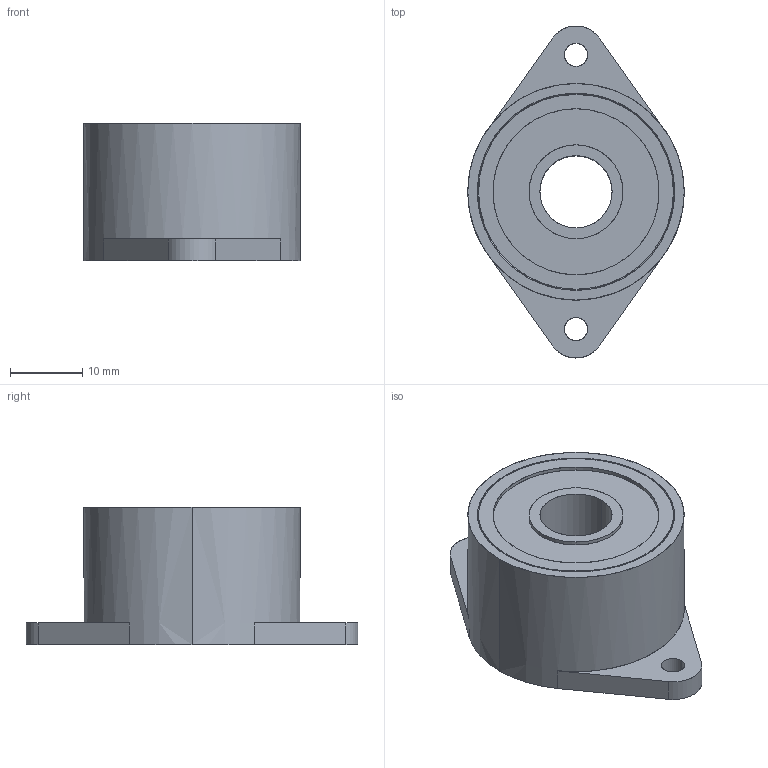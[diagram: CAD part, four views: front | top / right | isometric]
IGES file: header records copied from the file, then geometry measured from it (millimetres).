
Start section: SolidWorks IGES file using analytic representation for surfaces
Global section: file name: C:\3D-DATA\型式\R\【提出用】\IGS\FFD-30FW.IGS; native system: SolidWorks 2014; preprocessor: SolidWorks 2014; author: flgijutsu; date: 140516.195252; units: millimetre
Bounding box: 30 x 46 x 19 mm (x, y, z)
Surface area: 4755.2 mm2 (no closed solid volume)
Topology: 0 solids, 0 shells, 99 faces, 1308 edges, 1308 vertices
Faces by surface type: revolution 64, bspline 35
